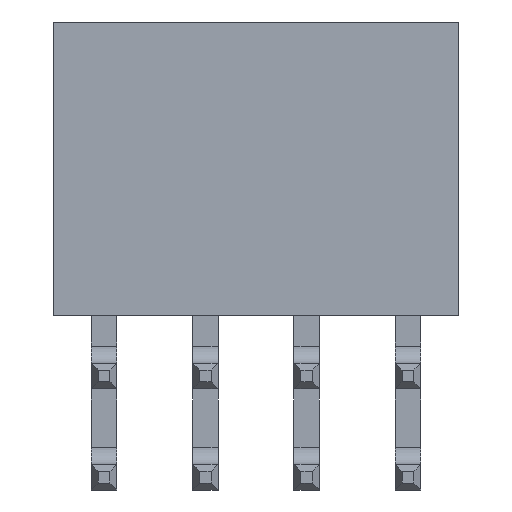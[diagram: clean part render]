
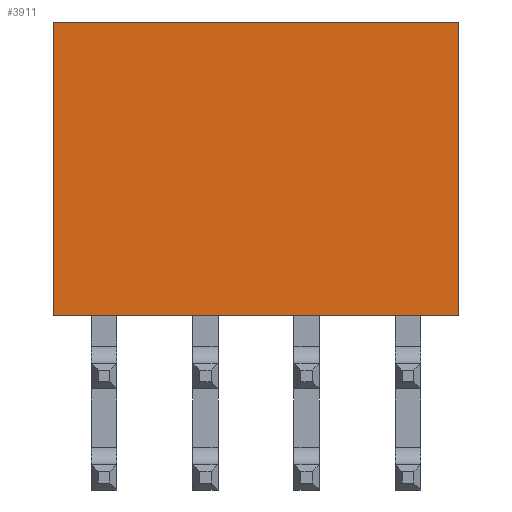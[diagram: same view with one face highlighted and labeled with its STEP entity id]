
A CAD part, front view. The second image highlights one B-rep face of the part: STEP entity #3911.
In plain terms, the highlighted planar face has unit normal (0, -1, 0).
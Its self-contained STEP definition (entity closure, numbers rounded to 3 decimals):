
#3492 = CARTESIAN_POINT ( 'NONE',  ( -5.08, 0., -1.23 ) ) ;
#3493 = VERTEX_POINT ( 'NONE', #3492 ) ;
#3494 = CARTESIAN_POINT ( 'NONE',  ( -5.08, 0., 6.13 ) ) ;
#3495 = VERTEX_POINT ( 'NONE', #3494 ) ;
#3496 = CARTESIAN_POINT ( 'NONE',  ( -5.08, 0., -1.23 ) ) ;
#3497 = DIRECTION ( 'NONE',  ( 0., 0., 1. ) ) ;
#3498 = VECTOR ( 'NONE', #3497, 1000. ) ;
#3499 = LINE ( 'NONE', #3496, #3498 ) ;
#3500 = EDGE_CURVE ( 'NONE', #3493, #3495, #3499, .T. ) ;
#3804 = CARTESIAN_POINT ( 'NONE',  ( 5.08, 0., 6.13 ) ) ;
#3805 = VERTEX_POINT ( 'NONE', #3804 ) ;
#3806 = CARTESIAN_POINT ( 'NONE',  ( -5.08, 0., 6.13 ) ) ;
#3807 = DIRECTION ( 'NONE',  ( 1., 0., 0. ) ) ;
#3808 = VECTOR ( 'NONE', #3807, 1000. ) ;
#3809 = LINE ( 'NONE', #3806, #3808 ) ;
#3810 = EDGE_CURVE ( 'NONE', #3495, #3805, #3809, .T. ) ;
#3835 = CARTESIAN_POINT ( 'NONE',  ( 5.08, 0., -1.23 ) ) ;
#3836 = VERTEX_POINT ( 'NONE', #3835 ) ;
#3837 = CARTESIAN_POINT ( 'NONE',  ( 5.08, 0., -1.23 ) ) ;
#3838 = DIRECTION ( 'NONE',  ( 0., 0., -1. ) ) ;
#3839 = VECTOR ( 'NONE', #3838, 1000. ) ;
#3840 = LINE ( 'NONE', #3837, #3839 ) ;
#3841 = EDGE_CURVE ( 'NONE', #3805, #3836, #3840, .T. ) ;
#3866 = CARTESIAN_POINT ( 'NONE',  ( -5.08, 0., -1.23 ) ) ;
#3867 = DIRECTION ( 'NONE',  ( -1., 0., 0. ) ) ;
#3868 = VECTOR ( 'NONE', #3867, 1000. ) ;
#3869 = LINE ( 'NONE', #3866, #3868 ) ;
#3870 = EDGE_CURVE ( 'NONE', #3836, #3493, #3869, .T. ) ;
#3900 = ORIENTED_EDGE ( 'NONE', *, *, #3500, .F. ) ;
#3901 = ORIENTED_EDGE ( 'NONE', *, *, #3870, .F. ) ;
#3902 = ORIENTED_EDGE ( 'NONE', *, *, #3841, .F. ) ;
#3903 = ORIENTED_EDGE ( 'NONE', *, *, #3810, .F. ) ;
#3904 = EDGE_LOOP ( 'NONE', ( #3900, #3901, #3902, #3903 ) ) ;
#3905 = FACE_OUTER_BOUND ( 'NONE', #3904, .T. ) ;
#3906 = CARTESIAN_POINT ( 'NONE',  ( 0., 0., 0. ) ) ;
#3907 = DIRECTION ( 'NONE',  ( 0., 1., 0. ) ) ;
#3908 = DIRECTION ( 'NONE',  ( 0., 0., 1. ) ) ;
#3909 = AXIS2_PLACEMENT_3D ( 'NONE', #3906, #3907, #3908 ) ;
#3910 = PLANE ( 'NONE', #3909 ) ;
#3911 = ADVANCED_FACE ( 'NONE', ( #3905 ), #3910, .F. ) ;
